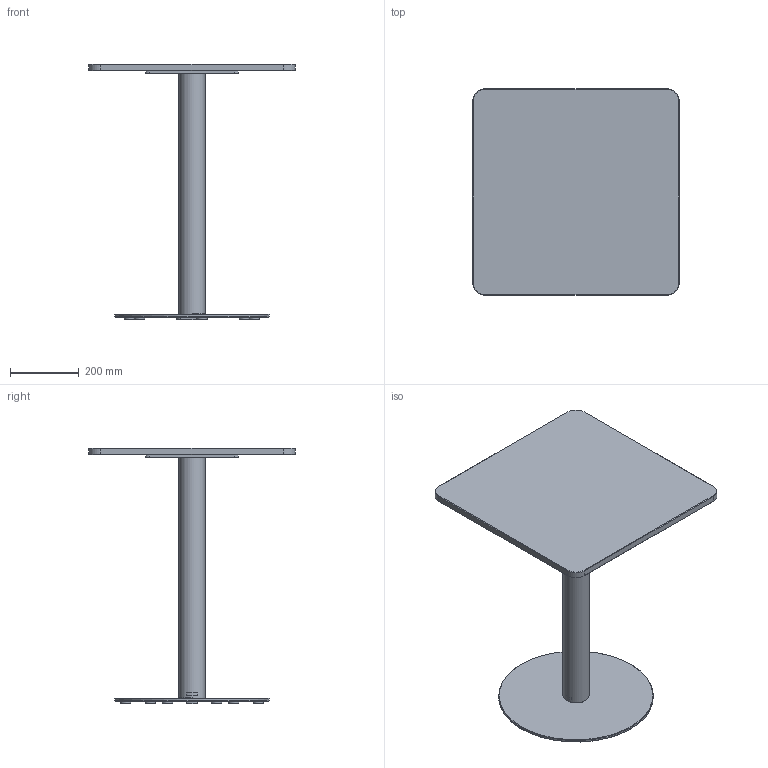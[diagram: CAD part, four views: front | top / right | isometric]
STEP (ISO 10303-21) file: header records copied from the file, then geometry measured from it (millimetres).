
FILE_DESCRIPTION( ('This file contains a STEP AP42 implementation' ,'as created by ZW3D STEP Interface translator.') ,'2;1' );
FILE_NAME( 'Henri - B_Rond - F3 - M1 - 600 x 600 x 750.stp' ,'24 912.153617', (''), ('ZWCAD Software Co.'), 'Version 1.0', 'ZW3D to STEP translator', '' );
FILE_SCHEMA(('AUTOMOTIVE_DESIGN { 1 0 10303 214 1 1 1 1 }'));
Length unit declared in the file: millimetre
Products named in the file (14): 0; PIED BISTROT PARAMETRIQUE_; COLONNE ACIER Ø76 V.02_; TUB-D076-02_; PLA-R76B-01_; SOCLE ACIER C Ø450 V.02_; SCL-D450-02_; PLA-R30A-01_; PLA-R30A-01; CROIX ACIER 370 V.02_; CRX-X370-02_; WUERTH 0276063020 Euro-screw 6.3x2 Verzinkt_; PLATEAU BISTROT PARAMETRIQUE_; insert_m6_13_
Assembly tree (24 placements, depth 3):
  0
  PIED BISTROT PARAMETRIQUE_
    COLONNE ACIER Ø76 V.02_
      TUB-D076-02_
      PLA-R76B-01_  x2
    SOCLE ACIER C Ø450 V.02_
      SCL-D450-02_
      PLA-R30A-01_
      PLA-R30A-01  x5
    CROIX ACIER 370 V.02_
      CRX-X370-02_
    WUERTH 0276063020 Euro-screw 6.3x2 Verzinkt_
    PLATEAU BISTROT PARAMETRIQUE_
      insert_m6_13_  x8
Bounding box: 600 x 600 x 744 mm (x, y, z)
Volume: 9396071.9 mm3; surface area: 1615313.7 mm2
Topology: 21 solids, 21 shells, 524 faces, 1273 edges, 802 vertices
Faces by surface type: plane 254, bspline 121, cylinder 99, cone 49, torus 1
Full cylindrical faces by diameter (mm): 4.88 x1, 6 x8, 6.3 x1, 8 x47, 12 x2, 14 x2, 30 x6, 72 x1, 76 x1, 450 x1
Entity records: 11734 total; most frequent: CARTESIAN_POINT 3302, ORIENTED_EDGE 1526, DIRECTION 1424, EDGE_CURVE 763, VERTEX_POINT 490, VECTOR 476, LINE 476, AXIS2_PLACEMENT_3D 474
